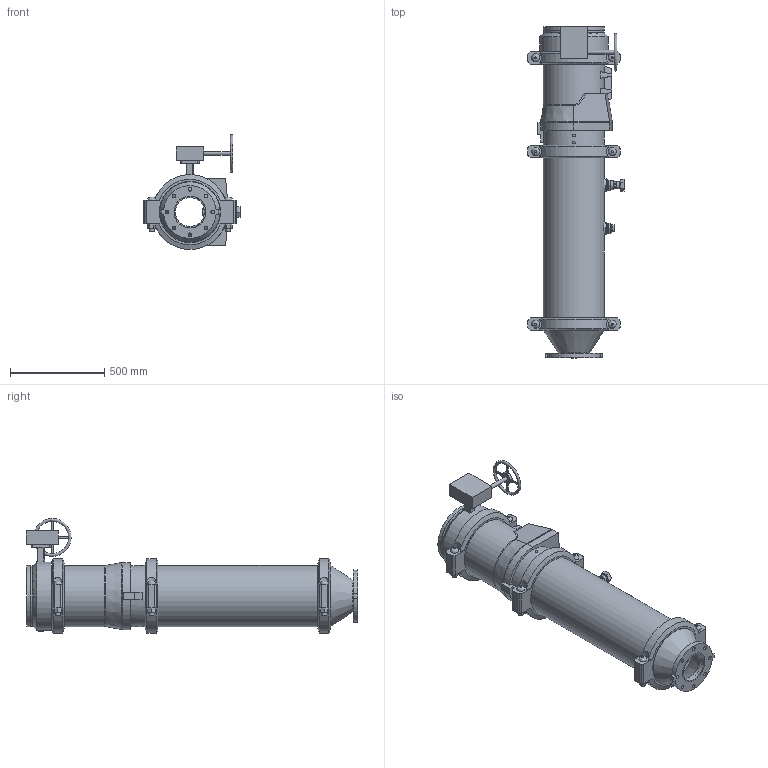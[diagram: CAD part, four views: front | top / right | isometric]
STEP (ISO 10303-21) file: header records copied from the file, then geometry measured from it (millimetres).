
FILE_DESCRIPTION(/* description */ ('VIC DVI PUMP DROP VERT S/380 (OGSxFLG) (S/924-1.25)','CAx-IF Rec.Pracs.---Representation and Presentation of Product Manufacturing Information (PMI)---4.0---2014-10-13'),/* implementation_level */ '2;1');
FILE_NAME(/* name */ 'C:\Users\Public\Documents\Victaulic.Temp\A765\Victaulic_IPS_Vertical DVI_CL 150_Series 380 (OGSxFLG)_924 (1.25)_12.0x06.0 (300x150).stp',/* time_stamp */ '2022-07-25T11:14:44+02:00',/* author */ ('Vjadhav'),/* organization */ ('Victaulic'),/* preprocessor_version */ 'ST-DEVELOPER v18',/* originating_system */ 'Autodesk Inventor 2020',/* authorisation */ '');
FILE_SCHEMA (('AP242_MANAGED_MODEL_BASED_3D_ENGINEERING_MIM_LF { 1 0 10303 442 1 1 4 }'));
Length unit declared in the file: inch
Products named in the file (9): 380_924 (1.25)-12.0x06.0; 741-06.0; 050-12.0x06.0; Pipe-12.0; 779-12.0; 923-10.0x0.75; 924-10.0x01.25; 761-12.0; 077-12.0
Assembly tree (10 placements, depth 2):
  380_924 (1.25)-12.0x06.0
    741-06.0
    050-12.0x06.0
    Pipe-12.0
    779-12.0
    923-10.0x0.75
    924-10.0x01.25
    761-12.0
    077-12.0  x3
Bounding box: 511.05 x 1760.22 x 609.46 mm (x, y, z)
Volume: 37356822.8 mm3; surface area: 5027251.1 mm2
Topology: 10 solids, 18 shells, 508 faces, 1272 edges, 867 vertices
Faces by surface type: plane 310, cylinder 163, cone 20, bspline 8, torus 7
Full cylindrical faces by diameter (mm): 10.922 x4, 13.716 x4, 19.05 x8, 20.066 x1, 21.336 x2, 22.86 x1, 25.4 x12, 26.67 x2, 27.432 x6, 31.75 x1, 38.608 x1, 42.164 x1, 45.974 x4, 48.514 x1, 55.626 x2, 63.079 x1, 70.104 x1, 76.2 x1, 154.051 x1, 163.957 x1, 168.275 x3, 303.225 x2, 304.8 x2, 314.96 x3, 318.287 x7, 323.85 x19, 361.95 x1
Entity records: 13163 total; most frequent: CARTESIAN_POINT 2615, DIRECTION 2145, ORIENTED_EDGE 1964, EDGE_CURVE 982, AXIS2_PLACEMENT_3D 815, VERTEX_POINT 671, LINE 515, VECTOR 515
